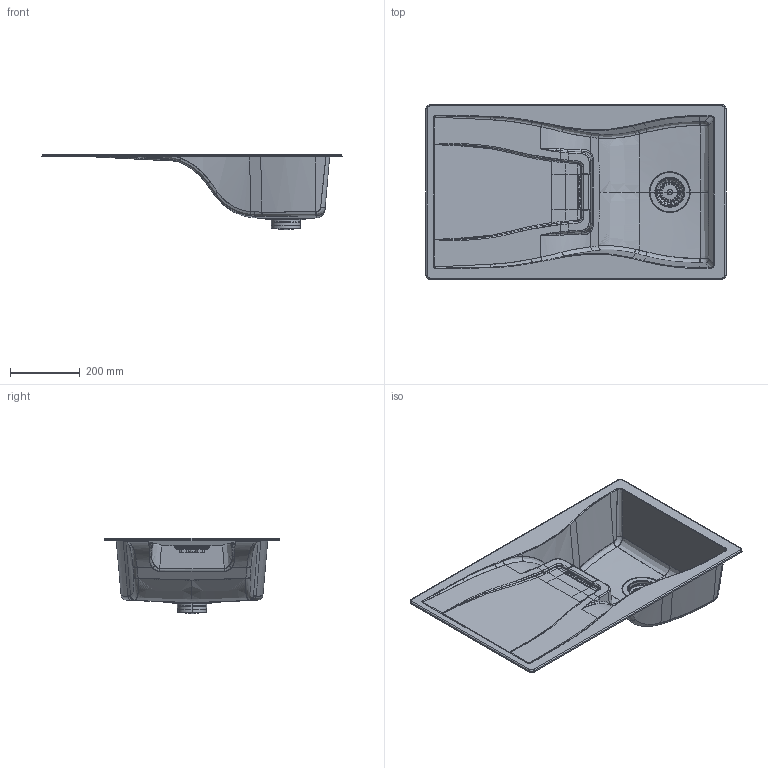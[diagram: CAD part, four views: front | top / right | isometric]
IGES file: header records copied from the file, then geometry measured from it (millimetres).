
Global section: file name: /Volumes/__KUNDEN/____01_SCHOCK/____projekte_schock/__RENDERINGS/__SPUELEN/02_3D Daten/02_PERSPEKTIVEN/Rhino/_SPU; native system: Rhinoceros ( Aug 27 2014 ); preprocessor: Trout Lake IGES 012 Aug 27 2014; date: 141104.103619; units: millimetre
Bounding box: 860 x 500 x 216.25 mm (x, y, z)
Surface area: 702176 mm2 (no closed solid volume)
Topology: 0 solids, 0 shells, 574 faces, 46134 edges, 46124 vertices
Faces by surface type: bspline 574
